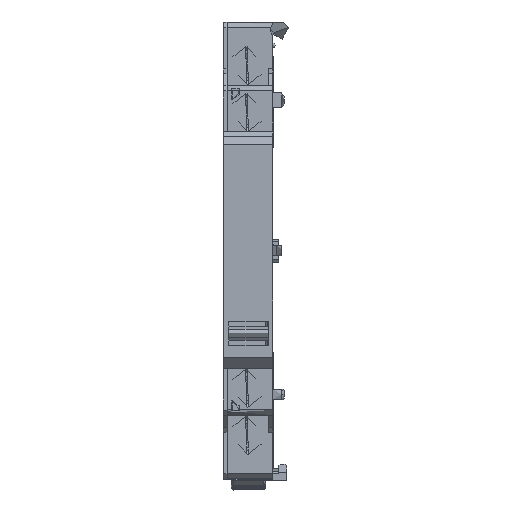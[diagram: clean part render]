
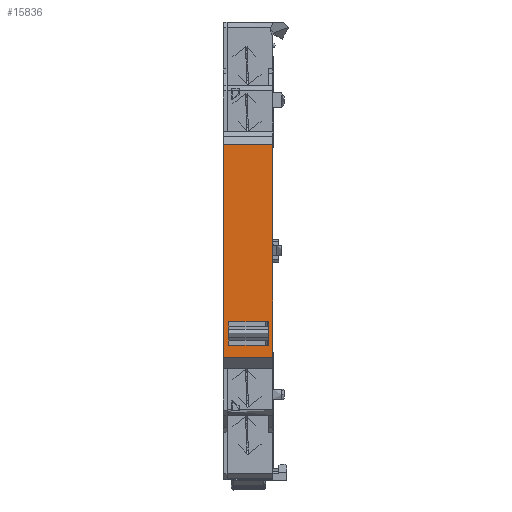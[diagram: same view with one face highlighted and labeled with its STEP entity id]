
A CAD part, top view. The second image highlights one B-rep face of the part: STEP entity #15836.
In plain terms, the highlighted planar face has unit normal (0, -1, 0) by its records, which use the part's own axes.
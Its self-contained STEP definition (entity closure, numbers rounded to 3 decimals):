
#3705 = CARTESIAN_POINT ( 'NONE',  ( 16.065, 55.795, -0.304 ) ) ;
#4409 = EDGE_CURVE ( 'NONE', #14717, #15762, #50296, .T. ) ;
#4956 = CARTESIAN_POINT ( 'NONE',  ( -20.392, 55.795, 8.298 ) ) ;
#5132 = EDGE_CURVE ( 'NONE', #64434, #26528, #47770, .T. ) ;
#7453 = CARTESIAN_POINT ( 'NONE',  ( -20.392, 55.795, 1.99 ) ) ;
#7917 = CARTESIAN_POINT ( 'NONE',  ( 20.645, 55.795, -1.164 ) ) ;
#7997 = CARTESIAN_POINT ( 'NONE',  ( 17.591, 55.795, 7.388 ) ) ;
#8676 = CARTESIAN_POINT ( 'NONE',  ( 16.065, 55.795, 7.388 ) ) ;
#8752 = CARTESIAN_POINT ( 'NONE',  ( 13.776, 55.795, -0.304 ) ) ;
#9818 = VERTEX_POINT ( 'NONE', #55965 ) ;
#10205 = EDGE_CURVE ( 'NONE', #14242, #56896, #24957, .T. ) ;
#10362 = ORIENTED_EDGE ( 'NONE', *, *, #10205, .F. ) ;
#10992 = CARTESIAN_POINT ( 'NONE',  ( 20.645, 55.795, 8.298 ) ) ;
#11041 = CARTESIAN_POINT ( 'NONE',  ( -6.713, 55.795, 8.298 ) ) ;
#11102 = ORIENTED_EDGE ( 'NONE', *, *, #31166, .F. ) ;
#11970 = ORIENTED_EDGE ( 'NONE', *, *, #17630, .F. ) ;
#12107 = CARTESIAN_POINT ( 'NONE',  ( 13.776, 55.795, -0.304 ) ) ;
#12505 = CARTESIAN_POINT ( 'NONE',  ( -20.392, 55.795, 5.144 ) ) ;
#12759 = EDGE_CURVE ( 'NONE', #35088, #15762, #57873, .T. ) ;
#12793 = CARTESIAN_POINT ( 'NONE',  ( 13.776, 55.795, 7.388 ) ) ;
#14202 = AXIS2_PLACEMENT_3D ( 'NONE', #52330, #62770, #26741 ) ;
#14237 = ORIENTED_EDGE ( 'NONE', *, *, #4409, .T. ) ;
#14242 = VERTEX_POINT ( 'NONE', #44225 ) ;
#14659 = B_SPLINE_CURVE_WITH_KNOTS ( 'NONE', 3,
 ( #8752, #49428, #34644, #3705 ),
 .UNSPECIFIED., .F., .F.,
 ( 4, 4 ),
 ( 0., 1. ),
 .UNSPECIFIED. ) ;
#14717 = VERTEX_POINT ( 'NONE', #60293 ) ;
#14829 = CARTESIAN_POINT ( 'NONE',  ( 20.645, 55.795, 5.144 ) ) ;
#15180 = CARTESIAN_POINT ( 'NONE',  ( 16.828, 55.795, -0.304 ) ) ;
#15762 = VERTEX_POINT ( 'NONE', #10992 ) ;
#15836 = ADVANCED_FACE ( 'NONE', ( #42228, #41899 ), #31816, .F. ) ;
#15875 = CARTESIAN_POINT ( 'NONE',  ( 18.354, 55.795, 4.824 ) ) ;
#16198 = CARTESIAN_POINT ( 'NONE',  ( 18.354, 55.795, 7.388 ) ) ;
#16824 = CARTESIAN_POINT ( 'NONE',  ( 14.539, 55.795, 7.388 ) ) ;
#17133 = CARTESIAN_POINT ( 'NONE',  ( 13.776, 55.795, 4.824 ) ) ;
#17630 = EDGE_CURVE ( 'NONE', #31071, #35088, #19775, .T. ) ;
#17716 = CARTESIAN_POINT ( 'NONE',  ( 16.828, 55.795, 7.388 ) ) ;
#18757 = EDGE_CURVE ( 'NONE', #26528, #9818, #65008, .T. ) ;
#18794 = CARTESIAN_POINT ( 'NONE',  ( -20.392, 55.795, -1.164 ) ) ;
#19223 = ORIENTED_EDGE ( 'NONE', *, *, #5132, .F. ) ;
#19507 = B_SPLINE_CURVE_WITH_KNOTS ( 'NONE', 3,
 ( #46142, #15180, #51171, #45483 ),
 .UNSPECIFIED., .F., .F.,
 ( 4, 4 ),
 ( 0., 1. ),
 .UNSPECIFIED. ) ;
#19775 = B_SPLINE_CURVE_WITH_KNOTS ( 'NONE', 3,
 ( #18794, #7453, #12505, #39360 ),
 .UNSPECIFIED., .F., .F.,
 ( 4, 4 ),
 ( 0., 1. ),
 .UNSPECIFIED. ) ;
#20409 = B_SPLINE_CURVE_WITH_KNOTS ( 'NONE', 3,
 ( #34698, #25215, #56516, #29979 ),
 .UNSPECIFIED., .F., .F.,
 ( 4, 4 ),
 ( 0., 1. ),
 .UNSPECIFIED. ) ;
#22008 = ORIENTED_EDGE ( 'NONE', *, *, #18757, .F. ) ;
#23930 = EDGE_CURVE ( 'NONE', #36079, #64434, #19507, .T. ) ;
#24957 = B_SPLINE_CURVE_WITH_KNOTS ( 'NONE', 3,
 ( #12793, #17133, #58188, #28226 ),
 .UNSPECIFIED., .F., .F.,
 ( 4, 4 ),
 ( 0., 1. ),
 .UNSPECIFIED. ) ;
#25215 = CARTESIAN_POINT ( 'NONE',  ( -6.713, 55.795, -1.164 ) ) ;
#25448 = CARTESIAN_POINT ( 'NONE',  ( 6.966, 55.795, 8.298 ) ) ;
#26114 = CARTESIAN_POINT ( 'NONE',  ( 20.645, 55.795, 8.298 ) ) ;
#26528 = VERTEX_POINT ( 'NONE', #36136 ) ;
#26741 = DIRECTION ( 'NONE',  ( 1., 0., 0. ) ) ;
#28226 = CARTESIAN_POINT ( 'NONE',  ( 13.776, 55.795, -0.304 ) ) ;
#29160 = CARTESIAN_POINT ( 'NONE',  ( 13.776, 55.795, 7.388 ) ) ;
#29908 = CARTESIAN_POINT ( 'NONE',  ( 16.065, 55.795, -0.304 ) ) ;
#29979 = CARTESIAN_POINT ( 'NONE',  ( 20.645, 55.795, -1.164 ) ) ;
#31071 = VERTEX_POINT ( 'NONE', #61269 ) ;
#31166 = EDGE_CURVE ( 'NONE', #9818, #14242, #53048, .T. ) ;
#31816 = PLANE ( 'NONE',  #14202 ) ;
#33450 = EDGE_CURVE ( 'NONE', #56896, #36079, #14659, .T. ) ;
#34644 = CARTESIAN_POINT ( 'NONE',  ( 15.302, 55.795, -0.304 ) ) ;
#34698 = CARTESIAN_POINT ( 'NONE',  ( -20.392, 55.795, -1.164 ) ) ;
#35088 = VERTEX_POINT ( 'NONE', #43879 ) ;
#35743 = CARTESIAN_POINT ( 'NONE',  ( 18.354, 55.795, -0.304 ) ) ;
#36079 = VERTEX_POINT ( 'NONE', #29908 ) ;
#36136 = CARTESIAN_POINT ( 'NONE',  ( 18.354, 55.795, 7.388 ) ) ;
#39360 = CARTESIAN_POINT ( 'NONE',  ( -20.392, 55.795, 8.298 ) ) ;
#40175 = ORIENTED_EDGE ( 'NONE', *, *, #12759, .F. ) ;
#41496 = EDGE_LOOP ( 'NONE', ( #11970, #44542, #14237, #40175 ) ) ;
#41899 = FACE_BOUND ( 'NONE', #66246, .T. ) ;
#42228 = FACE_OUTER_BOUND ( 'NONE', #41496, .T. ) ;
#42405 = CARTESIAN_POINT ( 'NONE',  ( 15.302, 55.795, 7.388 ) ) ;
#43879 = CARTESIAN_POINT ( 'NONE',  ( -20.392, 55.795, 8.298 ) ) ;
#44225 = CARTESIAN_POINT ( 'NONE',  ( 13.776, 55.795, 7.388 ) ) ;
#44542 = ORIENTED_EDGE ( 'NONE', *, *, #48515, .T. ) ;
#45483 = CARTESIAN_POINT ( 'NONE',  ( 18.354, 55.795, -0.304 ) ) ;
#46142 = CARTESIAN_POINT ( 'NONE',  ( 16.065, 55.795, -0.304 ) ) ;
#47328 = CARTESIAN_POINT ( 'NONE',  ( 18.354, 55.795, -0.304 ) ) ;
#47770 = B_SPLINE_CURVE_WITH_KNOTS ( 'NONE', 3,
 ( #35743, #62650, #15875, #16198 ),
 .UNSPECIFIED., .F., .F.,
 ( 4, 4 ),
 ( 0., 1. ),
 .UNSPECIFIED. ) ;
#48353 = CARTESIAN_POINT ( 'NONE',  ( 16.065, 55.795, 7.388 ) ) ;
#48515 = EDGE_CURVE ( 'NONE', #31071, #14717, #20409, .T. ) ;
#48925 = CARTESIAN_POINT ( 'NONE',  ( 20.645, 55.795, 8.298 ) ) ;
#49328 = CARTESIAN_POINT ( 'NONE',  ( 18.354, 55.795, 7.388 ) ) ;
#49428 = CARTESIAN_POINT ( 'NONE',  ( 14.539, 55.795, -0.304 ) ) ;
#50296 = B_SPLINE_CURVE_WITH_KNOTS ( 'NONE', 3,
 ( #7917, #60931, #14829, #48925 ),
 .UNSPECIFIED., .F., .F.,
 ( 4, 4 ),
 ( 0., 1. ),
 .UNSPECIFIED. ) ;
#51171 = CARTESIAN_POINT ( 'NONE',  ( 17.591, 55.795, -0.304 ) ) ;
#51583 = ORIENTED_EDGE ( 'NONE', *, *, #23930, .F. ) ;
#52330 = CARTESIAN_POINT ( 'NONE',  ( 20.645, 55.795, 0. ) ) ;
#53048 = B_SPLINE_CURVE_WITH_KNOTS ( 'NONE', 3,
 ( #8676, #42405, #16824, #29160 ),
 .UNSPECIFIED., .F., .F.,
 ( 4, 4 ),
 ( 0., 1. ),
 .UNSPECIFIED. ) ;
#55965 = CARTESIAN_POINT ( 'NONE',  ( 16.065, 55.795, 7.388 ) ) ;
#56516 = CARTESIAN_POINT ( 'NONE',  ( 6.966, 55.795, -1.164 ) ) ;
#56896 = VERTEX_POINT ( 'NONE', #12107 ) ;
#57873 = B_SPLINE_CURVE_WITH_KNOTS ( 'NONE', 3,
 ( #4956, #11041, #25448, #26114 ),
 .UNSPECIFIED., .F., .F.,
 ( 4, 4 ),
 ( 0., 1. ),
 .UNSPECIFIED. ) ;
#58188 = CARTESIAN_POINT ( 'NONE',  ( 13.776, 55.795, 2.26 ) ) ;
#60293 = CARTESIAN_POINT ( 'NONE',  ( 20.645, 55.795, -1.164 ) ) ;
#60931 = CARTESIAN_POINT ( 'NONE',  ( 20.645, 55.795, 1.99 ) ) ;
#61269 = CARTESIAN_POINT ( 'NONE',  ( -20.392, 55.795, -1.164 ) ) ;
#62650 = CARTESIAN_POINT ( 'NONE',  ( 18.354, 55.795, 2.26 ) ) ;
#62770 = DIRECTION ( 'NONE',  ( 0., 1., 0. ) ) ;
#64235 = ORIENTED_EDGE ( 'NONE', *, *, #33450, .F. ) ;
#64434 = VERTEX_POINT ( 'NONE', #47328 ) ;
#65008 = B_SPLINE_CURVE_WITH_KNOTS ( 'NONE', 3,
 ( #49328, #7997, #17716, #48353 ),
 .UNSPECIFIED., .F., .F.,
 ( 4, 4 ),
 ( 0., 1. ),
 .UNSPECIFIED. ) ;
#66246 = EDGE_LOOP ( 'NONE', ( #64235, #10362, #11102, #22008, #19223, #51583 ) ) ;
